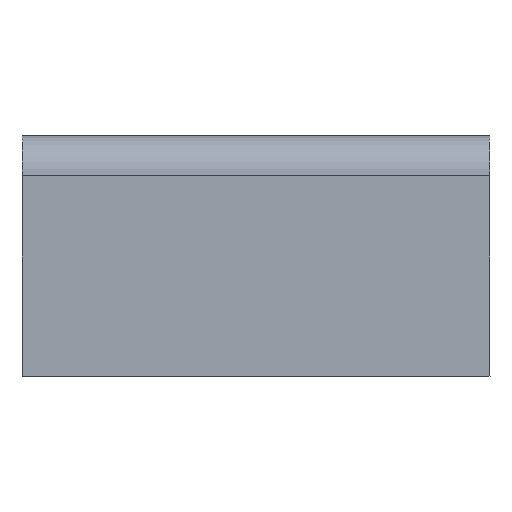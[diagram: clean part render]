
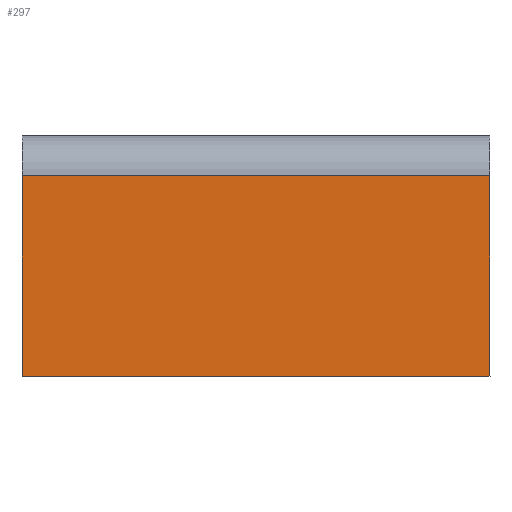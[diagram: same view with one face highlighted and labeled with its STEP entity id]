
A CAD part, front view. The second image highlights one B-rep face of the part: STEP entity #297.
In plain terms, the highlighted planar face has unit normal (0, -1, 0).
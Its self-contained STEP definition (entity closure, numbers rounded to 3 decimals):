
#7 = VECTOR ( 'NONE', #427, 1000. ) ;
#32 = CARTESIAN_POINT ( 'NONE',  ( -35., 0., -36. ) ) ;
#33 = AXIS2_PLACEMENT_3D ( 'NONE', #69, #402, #302 ) ;
#42 = LINE ( 'NONE', #171, #368 ) ;
#65 = VERTEX_POINT ( 'NONE', #32 ) ;
#69 = CARTESIAN_POINT ( 'NONE',  ( 35., 0., 0. ) ) ;
#90 = CARTESIAN_POINT ( 'NONE',  ( 35., 0., -36. ) ) ;
#116 = ORIENTED_EDGE ( 'NONE', *, *, #153, .F. ) ;
#127 = LINE ( 'NONE', #324, #247 ) ;
#129 = LINE ( 'NONE', #90, #7 ) ;
#135 = ORIENTED_EDGE ( 'NONE', *, *, #416, .T. ) ;
#143 = CARTESIAN_POINT ( 'NONE',  ( -35., 0., -6. ) ) ;
#153 = EDGE_CURVE ( 'NONE', #157, #412, #42, .T. ) ;
#157 = VERTEX_POINT ( 'NONE', #176 ) ;
#171 = CARTESIAN_POINT ( 'NONE',  ( 35., 0., 0. ) ) ;
#176 = CARTESIAN_POINT ( 'NONE',  ( 35., 0., -6. ) ) ;
#190 = VECTOR ( 'NONE', #319, 1000. ) ;
#211 = ORIENTED_EDGE ( 'NONE', *, *, #426, .F. ) ;
#247 = VECTOR ( 'NONE', #355, 1000. ) ;
#248 = LINE ( 'NONE', #316, #190 ) ;
#263 = VERTEX_POINT ( 'NONE', #143 ) ;
#270 = FACE_OUTER_BOUND ( 'NONE', #403, .T. ) ;
#297 = ADVANCED_FACE ( 'NONE', ( #270 ), #363, .F. ) ;
#302 = DIRECTION ( 'NONE',  ( 0., 0., 1. ) ) ;
#316 = CARTESIAN_POINT ( 'NONE',  ( -35., 0., 0. ) ) ;
#319 = DIRECTION ( 'NONE',  ( 0., 0., -1. ) ) ;
#324 = CARTESIAN_POINT ( 'NONE',  ( 35., 0., -6. ) ) ;
#355 = DIRECTION ( 'NONE',  ( -1., 0., 0. ) ) ;
#363 = PLANE ( 'NONE',  #33 ) ;
#368 = VECTOR ( 'NONE', #429, 1000. ) ;
#380 = EDGE_CURVE ( 'NONE', #263, #65, #248, .T. ) ;
#393 = CARTESIAN_POINT ( 'NONE',  ( 35., 0., -36. ) ) ;
#402 = DIRECTION ( 'NONE',  ( 0., 1., 0. ) ) ;
#403 = EDGE_LOOP ( 'NONE', ( #414, #211, #116, #135 ) ) ;
#412 = VERTEX_POINT ( 'NONE', #393 ) ;
#414 = ORIENTED_EDGE ( 'NONE', *, *, #380, .T. ) ;
#416 = EDGE_CURVE ( 'NONE', #157, #263, #127, .T. ) ;
#426 = EDGE_CURVE ( 'NONE', #412, #65, #129, .T. ) ;
#427 = DIRECTION ( 'NONE',  ( -1., 0., 0. ) ) ;
#429 = DIRECTION ( 'NONE',  ( 0., 0., -1. ) ) ;
